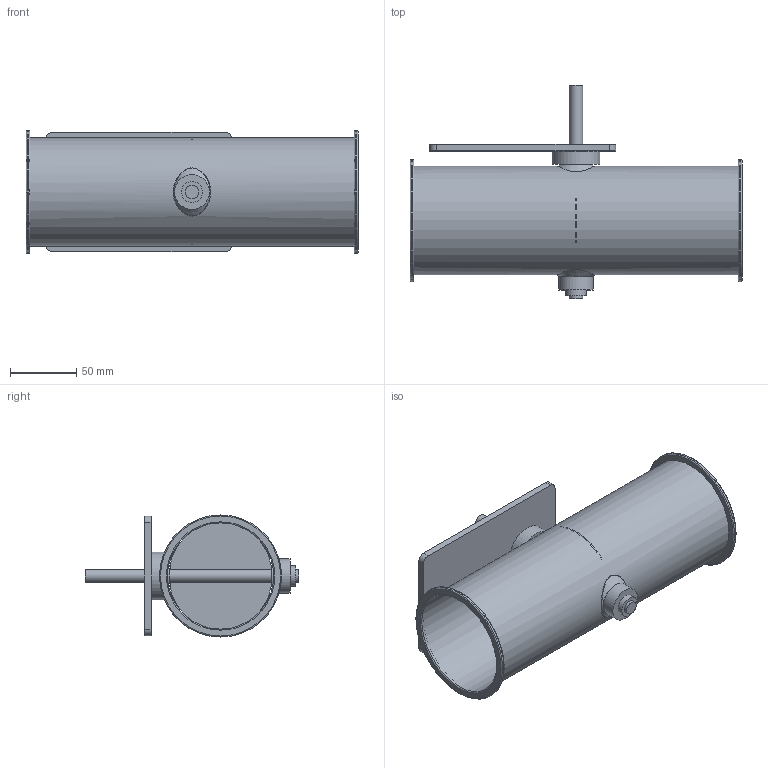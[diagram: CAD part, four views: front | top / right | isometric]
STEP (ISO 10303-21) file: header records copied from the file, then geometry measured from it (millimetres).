
FILE_DESCRIPTION(/* description */ (''),/* implementation_level */ '2;1');
FILE_NAME(/* name */ 'EA118-80B__80_L250_Belimo_Typ_NM.stp',/* time_stamp */ '2017-12-05T12:07:24+01:00',/* author */ (''),/* organization */ (''),/* preprocessor_version */ 'ST-DEVELOPER v11',/* originating_system */ 'SIEMENS UGS NX 6.0',/* authorisation */ '');
FILE_SCHEMA (('CONFIG_CONTROL_DESIGN'));
Length unit declared in the file: millimetre
Products named in the file (1): gars1E3Bhiep
Bounding box: 250 x 161 x 92 mm (x, y, z)
Volume: 156279.3 mm3; surface area: 184813 mm2
Topology: 8 solids, 8 shells, 74 faces, 155 edges, 105 vertices
Faces by surface type: plane 30, cylinder 26, torus 10, cone 4, bspline 4
Full cylindrical faces by diameter (mm): 4.1 x2, 10 x3, 15 x3, 15.85 x2, 16 x2, 24 x2, 26 x1, 36 x1, 80 x1, 81.6 x1, 92 x2
Entity records: 2456 total; most frequent: CARTESIAN_POINT 991, DIRECTION 298, ORIENTED_EDGE 196, EDGE_LOOP 140, AXIS2_PLACEMENT_3D 137, FACE_BOUND 126, EDGE_CURVE 98, VERTEX_POINT 86
